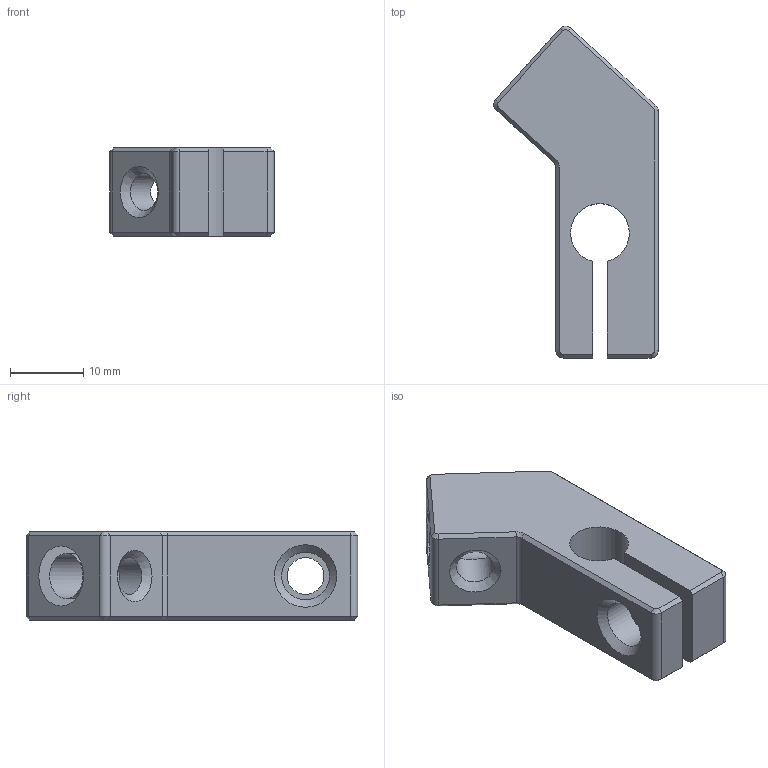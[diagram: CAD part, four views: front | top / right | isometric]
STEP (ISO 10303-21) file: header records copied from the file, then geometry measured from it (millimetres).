
FILE_DESCRIPTION(/* description */ (''),/* implementation_level */ '2;1');
FILE_NAME(/* name */ 'G:\My Drive\00 Халтуры\04_Барабан\Держатель_колотушки_Д16Т_1шт.stp',/* time_stamp */ '2025-10-20T13:32:57+02:00',/* author */ ('GeorgyZenker'),/* organization */ (''),/* preprocessor_version */ 'ST-DEVELOPER v18.1',/* originating_system */ 'Autodesk Inventor 2022',/* authorisation */ '');
FILE_SCHEMA (('AUTOMOTIVE_DESIGN { 1 0 10303 214 3 1 1 }'));
Length unit declared in the file: millimetre
Products named in the file (1): Держатель_колотушки
Bounding box: 22.44 x 45.2 x 12 mm (x, y, z)
Volume: 5617 mm3; surface area: 3530.8 mm2
Topology: 1 solids, 1 shells, 52 faces, 124 edges, 74 vertices
Faces by surface type: plane 25, cone 16, cylinder 11
Full cylindrical faces by diameter (mm): 5 x2, 6.1 x1, 6.5 x1
Entity records: 1573 total; most frequent: CARTESIAN_POINT 293, DIRECTION 266, ORIENTED_EDGE 248, EDGE_CURVE 124, AXIS2_PLACEMENT_3D 91, LINE 84, VECTOR 84, VERTEX_POINT 74
